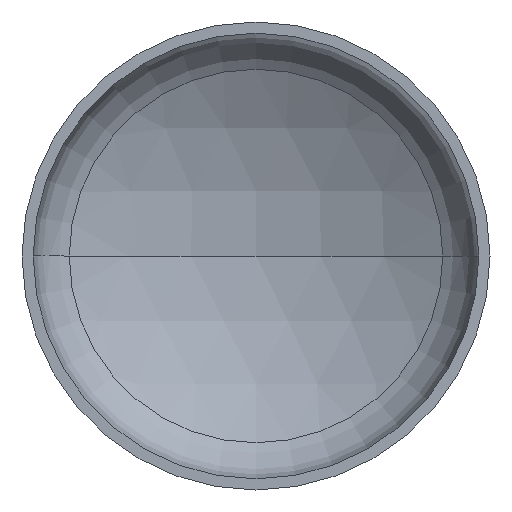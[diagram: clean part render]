
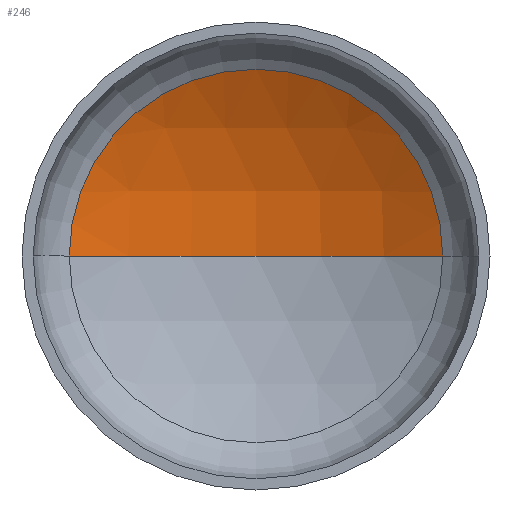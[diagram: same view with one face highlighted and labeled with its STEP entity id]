
A CAD part, front view. The second image highlights one B-rep face of the part: STEP entity #246.
In plain terms, the highlighted spherical face has radius 1040 mm.
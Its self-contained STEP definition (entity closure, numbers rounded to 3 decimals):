
#20 = ORIENTED_EDGE ( 'NONE', *, *, #322, .T. ) ;
#22 = AXIS2_PLACEMENT_3D ( 'NONE', #176, #192, #191 ) ;
#23 = AXIS2_PLACEMENT_3D ( 'NONE', #327, #323, #324 ) ;
#26 = AXIS2_PLACEMENT_3D ( 'NONE', #304, #305, #320 ) ;
#33 = ORIENTED_EDGE ( 'NONE', *, *, #329, .T. ) ;
#38 = AXIS2_PLACEMENT_3D ( 'NONE', #255, #252, #251 ) ;
#41 = FACE_OUTER_BOUND ( 'NONE', #72, .T. ) ;
#60 = ORIENTED_EDGE ( 'NONE', *, *, #336, .F. ) ;
#72 = EDGE_LOOP ( 'NONE', ( #60, #33, #20 ) ) ;
#152 = VERTEX_POINT ( 'NONE', #373 ) ;
#159 = VERTEX_POINT ( 'NONE', #202 ) ;
#176 = CARTESIAN_POINT ( 'NONE',  ( 0., -628.038, 0. ) ) ;
#189 = VERTEX_POINT ( 'NONE', #394 ) ;
#191 = DIRECTION ( 'NONE',  ( 1., 0., 0. ) ) ;
#192 = DIRECTION ( 'NONE',  ( 0., 0., 1. ) ) ;
#202 = CARTESIAN_POINT ( 'NONE',  ( 0., 411.962, 0. ) ) ;
#220 = CIRCLE ( 'NONE', #26, 518.762 ) ;
#246 = ADVANCED_FACE ( 'NONE', ( #41 ), #307, .F. ) ;
#251 = DIRECTION ( 'NONE',  ( -1., 0., 0. ) ) ;
#252 = DIRECTION ( 'NONE',  ( 0., 0., -1. ) ) ;
#255 = CARTESIAN_POINT ( 'NONE',  ( 0., -628.038, 0. ) ) ;
#304 = CARTESIAN_POINT ( 'NONE',  ( 0., 273.342, 0. ) ) ;
#305 = DIRECTION ( 'NONE',  ( 0., -1., 0. ) ) ;
#307 = SPHERICAL_SURFACE ( 'NONE', #38, 1040. ) ;
#320 = DIRECTION ( 'NONE',  ( 1., 0., 0. ) ) ;
#322 = EDGE_CURVE ( 'NONE', #189, #152, #220, .T. ) ;
#323 = DIRECTION ( 'NONE',  ( 0., 0., -1. ) ) ;
#324 = DIRECTION ( 'NONE',  ( -1., 0., 0. ) ) ;
#327 = CARTESIAN_POINT ( 'NONE',  ( 0., -628.038, 0. ) ) ;
#329 = EDGE_CURVE ( 'NONE', #159, #189, #360, .T. ) ;
#336 = EDGE_CURVE ( 'NONE', #159, #152, #406, .T. ) ;
#360 = CIRCLE ( 'NONE', #23, 1040. ) ;
#373 = CARTESIAN_POINT ( 'NONE',  ( -518.762, 273.342, 0. ) ) ;
#394 = CARTESIAN_POINT ( 'NONE',  ( 518.762, 273.342, 0. ) ) ;
#406 = CIRCLE ( 'NONE', #22, 1040. ) ;
